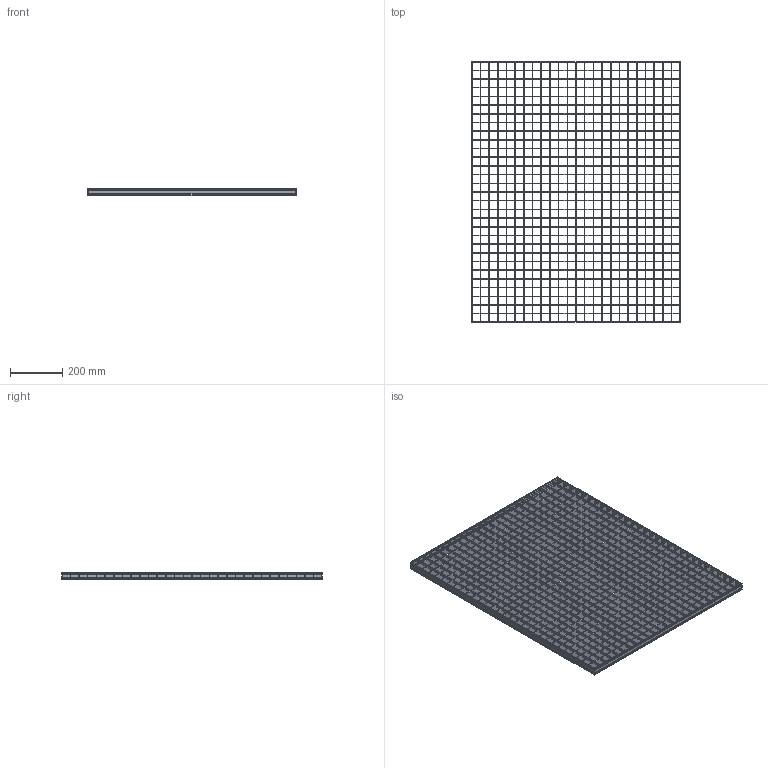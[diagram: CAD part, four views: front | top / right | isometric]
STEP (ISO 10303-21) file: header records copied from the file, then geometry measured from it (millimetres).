
FILE_DESCRIPTION(/* description */ ('STEP AP242','CAx-IF Rec.Pracs.---Representation and Presentation of Product Manufacturing Information (PMI)---4.0---2014-10-13','CAx-IF Rec.Pracs.---3D Tessellated Geometry---0.4---2014-09-14','2;1'),/* implementation_level */ '2;1');
FILE_NAME(/* name */ 'Lichtgitter_Pressure_locked_gratings PX3 230-33-2-1-1-800-1000_(350_0)',/* time_stamp */ '2026-04-23T08:34:24+02:00',/* author */ ('License CC BY-ND 4.0'),/* organization */ ('CADENAS'),/* preprocessor_version */ 'ST-DEVELOPER v20',/* originating_system */ 'PARTsolutions',/* authorisation */ ' ');
FILE_SCHEMA (('AP242_MANAGED_MODEL_BASED_3D_ENGINEERING_MIM_LF { 1 0 10303 442 1 1 4 }'));
Length unit declared in the file: millimetre
Products named in the file (5): Lichtgitter_Pressure_locked_gratings PX3 230-33-2-1-1-800-1000_(350_0
); Lichtgitter PX3 230-33-2_(Pressroste_350_1_1000_800)_VERTICAL; Lichtgitter PX3 230-33-2_(Pressroste_350_1_1000_800)_HORIZONTAL_C; Lichtgitter PX3 230-33-2_(Pressroste_350_1_1000_800)_HORIZONTAL; Lichtgitter PX3 230-33-2_(Pressroste_350_1_1000_800)_VERTICAL_C
Assembly tree (56 placements, depth 2):
  Lichtgitter_Pressure_locked_gratings PX3 230-33-2-1-1-800-1000_(350_0
)
    Lichtgitter PX3 230-33-2_(Pressroste_350_1_1000_800)_VERTICAL  x2
    Lichtgitter PX3 230-33-2_(Pressroste_350_1_1000_800)_HORIZONTAL_C  x29
    Lichtgitter PX3 230-33-2_(Pressroste_350_1_1000_800)_HORIZONTAL  x2
    Lichtgitter PX3 230-33-2_(Pressroste_350_1_1000_800)_VERTICAL_C  x23
Bounding box: 800 x 1000 x 30 mm (x, y, z)
Volume: 2061968.4 mm3; surface area: 2279374.9 mm2
Topology: 56 solids, 56 shells, 3052 faces, 8820 edges, 5880 vertices
Faces by surface type: plane 3020, cylinder 32
Entity records: 5007 total; most frequent: CARTESIAN_POINT 857, DIRECTION 822, ORIENTED_EDGE 792, EDGE_CURVE 396, LINE 364, VECTOR 364, VERTEX_POINT 264, AXIS2_PLACEMENT_3D 229
